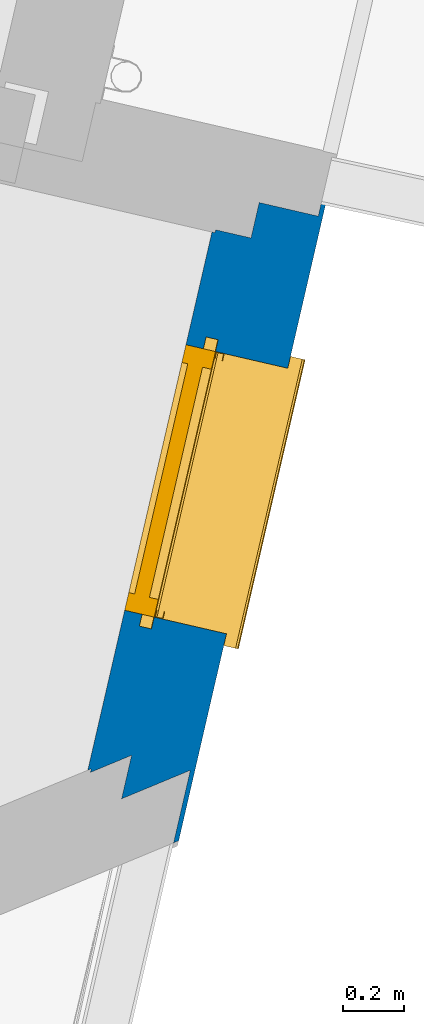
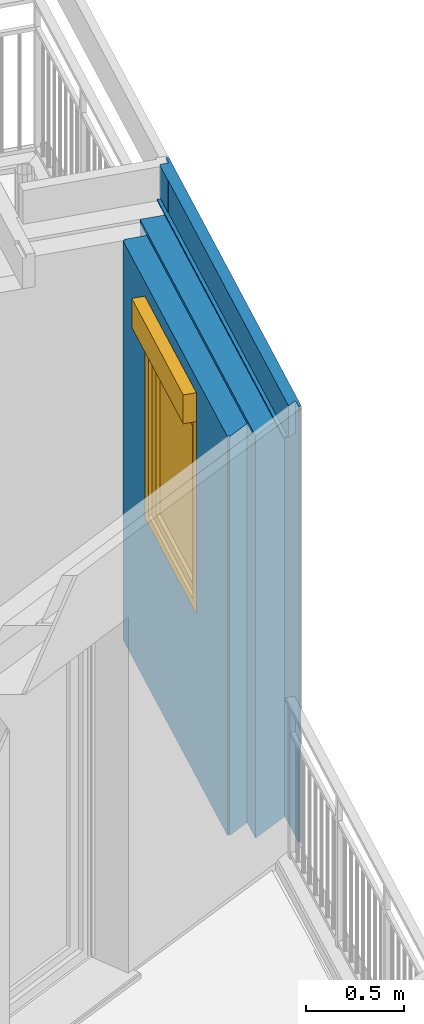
# One storey, part 15 of 91: 1 wall, 1 window, 1 opening.
"""IFC2X3 building model written with IfcOpenShell, lengths in metres."""

from ifc_helpers import new_model, entity, si_unit, converted_unit, derived_unit, money_unit, direction, frame, origin_with_axes, place, context, subcontext, project, spatial, open_shell, faceted_brep, surface_model, source, transform, mapped, material, material_list, type_object, element, fill, save


model = new_model("IFC2X3")

# Units and contexts
model_context = context("Model", 3, precision=1e-05, world=origin_with_axes(), true_north=direction((0.0, 1.0)))
body_context = subcontext(model_context, "Body", "Model", "MODEL_VIEW")
ifc_project = project(units=[si_unit("LENGTHUNIT", "METRE"), si_unit("AREAUNIT", "SQUARE_METRE"), si_unit("VOLUMEUNIT", "CUBIC_METRE"), converted_unit("PLANEANGLEUNIT", "DEGREE", entity("IfcPlaneAngleMeasure", 0.0174532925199), si_unit("PLANEANGLEUNIT", "RADIAN"), dimensions=[0, 0, 0, 0, 0, 0, 0]), si_unit("SOLIDANGLEUNIT", "STERADIAN"), money_unit("EUR"), converted_unit("TIMEUNIT", "Year", entity("IfcTimeMeasure", 31556926.0), si_unit("TIMEUNIT", "SECOND"), dimensions=[0, 0, 1, 0, 0, 0, 0]), si_unit("MASSUNIT", "GRAM", prefix="KILO"), si_unit("THERMODYNAMICTEMPERATUREUNIT", "DEGREE_CELSIUS"), si_unit("LUMINOUSINTENSITYUNIT", "LUMEN"), si_unit("ENERGYUNIT", "JOULE", prefix="MEGA"), derived_unit("THERMALCONDUCTANCEUNIT", [(si_unit("POWERUNIT", "WATT"), 1), (si_unit("LENGTHUNIT", "METRE"), -1), (si_unit("THERMODYNAMICTEMPERATUREUNIT", "KELVIN"), -1)]), derived_unit("SPECIFICHEATCAPACITYUNIT", [(si_unit("ENERGYUNIT", "JOULE"), 1), (si_unit("MASSUNIT", "GRAM", prefix="KILO"), -1), (si_unit("THERMODYNAMICTEMPERATUREUNIT", "KELVIN"), -1)]), derived_unit("MASSDENSITYUNIT", [(si_unit("MASSUNIT", "GRAM", prefix="KILO"), 1), (si_unit("VOLUMEUNIT", "CUBIC_METRE"), -1)])], contexts=[model_context])

# Site, building, storey
site_placement = place(None, origin_with_axes())
site = spatial("IfcSite", under=ifc_project, at=site_placement, Name="Site", CompositionType="ELEMENT")
building_placement = place(site_placement, origin_with_axes())
building = spatial("IfcBuilding", under=site, at=building_placement, Name="Bâtiment", CompositionType="ELEMENT")
storey_placement = place(building_placement, frame((0.0, 0.0, 5.44), z_axis=(0.0, 0.0, 1.0), x_axis=(1.0, 0.0, 0.0)))
storey = spatial("IfcBuildingStorey", under=building, at=storey_placement, Name="R+2", CompositionType="ELEMENT", Elevation=5.44)

# Wall, opening, window
ifc_material_1 = material(Name="Finition ext - Crépis")
ifc_material_2 = material(Name="Béton cellulaire")
ifc_material_3 = material(Name="Mortier")
ifc_material_4 = material(Name="Isolation - Polystyrène expansé")
ifc_material_5 = material(Name="Bloc ELITHERM")
ifc_material_6 = material(Name="Isolation - Polystyrène extrudé")
ifc_material_7 = material(Name="Finition int - Plaque de plâtre")
ifc_material_list = material_list([ifc_material_1, ifc_material_2, ifc_material_3, ifc_material_4, ifc_material_5, ifc_material_6, ifc_material_7])
wall_type = type_object("IfcWallType", Name="Mur ALKERN + planelle 21 345 x 2720", PredefinedType="USERDEFINED")
wall_placement = place(storey_placement, frame((-7.09774602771, -17.8354511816, 0.0), z_axis=(0.0, 0.0, 1.0), x_axis=(-0.224876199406, -0.974387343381, 0.0)))
wall = element("IfcWall", 1, at=wall_placement, inside=storey, type_object=wall_type, material=ifc_material_list, Name="Mue bloc ALKERN isolé", ObjectType="SOLIDWALL", context=body_context, shape_type="Brep", body=[
    faceted_brep([(0.726995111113, -0.0149999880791, 1.02), (0.726995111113, -0.0149999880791, 0.96), (0.726995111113, 0.0, 0.96), (0.726995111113, 0.0, 1.02), (0.726995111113, 0.0, 2.22), (0.726995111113, -0.0149999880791, 2.22), (0.0149999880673, -0.0149999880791, 2.72), (0.0149999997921, -0.0149999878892, 0.0), (0.0249818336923, -0.0149999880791, 0.0106237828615), (0.165039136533, -0.0149999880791, 0.0193762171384), (0.17502097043, -0.0149999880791, 0.01), (0.17502097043, -0.0149999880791, 0.0), (2.33899022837, -0.0149999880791, 0.0), (2.33899022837, -0.0149999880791, 2.72), (1.62699511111, -0.0149999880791, 2.22), (1.62699511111, -0.0149999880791, 1.02), (1.62699511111, -0.0149999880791, 0.96), (1.62699511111, 0.0, 0.96), (2.32828206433, 0.0, 0.0), (0.174778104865, 0.0, 0.0), (0.174778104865, 0.0, 0.01), (0.164796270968, 0.0, 0.0193762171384), (0.0247389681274, 0.0, 0.0106237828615), (0.0149999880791, 0.0, 0.000258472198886), (0.0149999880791, 0.0, 2.72), (2.32828206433, 0.0, 2.72), (1.62699511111, 0.0, 1.02), (1.62699511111, 0.0, 2.22)], [[[0, 1, 2, 3, 4, 5]], [[6, 7, 8, 9, 10, 11, 12, 13], [1, 0, 5, 14, 15, 16]], [[17, 2, 1, 16]], [[18, 19, 20, 21, 22, 23, 24, 25], [17, 26, 27, 4, 3, 2]], [[27, 14, 5, 4]], [[24, 23, 7, 6]], [[23, 22, 8, 7]], [[21, 9, 8, 22]], [[20, 10, 9, 21]], [[19, 11, 10, 20]], [[19, 18, 12, 11]], [[13, 12, 18, 25]], [[25, 24, 6, 13]], [[26, 17, 16, 15, 14, 27]]]),
    faceted_brep([(2.31428036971, -0.0629999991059, 2.72), (2.28001421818, -0.015, 2.72), (0.0629999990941, -0.015, 2.72), (0.0629999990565, -0.0629999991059, 2.72), (2.28001421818, -0.015, 2.51999999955), (2.31428036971, -0.0629999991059, 2.51999999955), (0.0629999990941, -0.015, 2.51999999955), (0.0629999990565, -0.0629999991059, 2.51999999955)], [[[0, 1, 2, 3]], [[4, 1, 0, 5]], [[1, 4, 6, 2]], [[3, 2, 6, 7]], [[5, 0, 3, 7]], [[4, 5, 7, 6]]]),
    faceted_brep([(2.30398459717, -0.083, 2.52), (2.25544088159, -0.015, 2.52), (0.0829999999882, -0.015, 2.52), (0.0829999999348, -0.083, 2.52), (2.25544088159, -0.015, 2.51), (2.30398459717, -0.083, 2.51), (0.0829999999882, -0.015, 2.51), (0.0829999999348, -0.083, 2.51)], [[[0, 1, 2, 3]], [[4, 1, 0, 5]], [[1, 4, 6, 2]], [[3, 2, 6, 7]], [[5, 0, 3, 7]], [[4, 5, 7, 6]]]),
    faceted_brep([(0.083000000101, -0.0649033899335, 2.51999999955), (0.083000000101, -0.0649033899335, 2.72), (0.0830000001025, -0.0630000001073, 2.72), (0.0830000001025, -0.0630000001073, 2.51999999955), (0.215000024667, -0.0649033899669, 2.72), (0.215000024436, -0.0649033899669, 2.51999999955), (0.215000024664, -0.0629999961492, 2.72), (0.215000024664, -0.0629999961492, 2.51999999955)], [[[0, 1, 2, 3]], [[4, 1, 0, 5]], [[1, 4, 6, 2]], [[6, 7, 3, 2]], [[5, 0, 3, 7]], [[4, 5, 7, 6]]]),
    faceted_brep([(0.726995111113, -0.214999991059, 1.02), (0.726995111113, -0.214999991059, 0.96), (0.726995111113, -0.015, 0.96), (0.726995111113, -0.015, 1.02), (0.726995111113, -0.015, 2.22), (0.726995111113, -0.214999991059, 2.22), (0.214999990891, -0.214999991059, 2.50999999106), (0.214999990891, -0.214999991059, 0.0), (2.23603250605, -0.214999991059, 0.0), (2.23603250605, -0.214999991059, 2.50999999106), (1.62699511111, -0.214999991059, 2.22), (1.62699511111, -0.214999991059, 1.02), (1.62699511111, -0.214999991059, 0.96), (1.62699511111, -0.015, 0.96), (0.214999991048, -0.015, 0.0), (0.214999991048, -0.015, 2.50999999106), (2.09325687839, -0.015, 2.50999999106), (2.09325687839, -0.015, 0.0), (1.62699511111, -0.015, 1.02), (1.62699511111, -0.015, 2.22), (0.214999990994, -0.0829999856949, 2.50999999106), (2.14180058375, -0.0829999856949, 2.50999999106)], [[[0, 1, 2, 3, 4, 5]], [[6, 7, 8, 9], [1, 0, 5, 10, 11, 12]], [[13, 2, 1, 12]], [[14, 15, 16, 17], [13, 18, 19, 4, 3, 2]], [[19, 10, 5, 4]], [[6, 20, 15, 14, 7]], [[7, 14, 17, 8]], [[8, 17, 16, 21, 9]], [[20, 6, 9, 21]], [[18, 13, 12, 11, 10, 19]], [[15, 20, 21, 16]]]),
    faceted_brep([(0.726995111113, -0.286, 1.02), (0.726995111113, -0.286, 0.96), (0.726995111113, -0.215000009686, 0.96), (0.726995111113, -0.215000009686, 1.02), (0.726995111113, -0.215, 2.22), (0.726995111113, -0.215, 2.4), (0.726995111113, -0.335000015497, 2.4), (0.726995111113, -0.335000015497, 2.22), (0.726995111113, -0.335000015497, 1.02), (1.62699511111, -0.286, 1.02), (1.62699511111, -0.286, 0.96), (1.62699511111, -0.215000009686, 0.96), (0.335000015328, -0.215000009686, 2.49), (2.08859247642, -0.215000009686, 2.49), (2.08859247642, -0.215000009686, 0.0), (0.335000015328, -0.215000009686, 0.0), (1.62699511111, -0.215000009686, 1.02), (1.62699511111, -0.215, 2.22), (1.62699511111, -0.215, 2.4), (1.62699511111, -0.335000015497, 2.4), (2.174257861, -0.335000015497, 2.49), (0.335000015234, -0.335000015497, 2.49), (0.335000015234, -0.335000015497, 0.0), (2.174257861, -0.335000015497, 0.0), (1.62699511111, -0.335000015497, 2.22), (1.62699511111, -0.335000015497, 1.02)], [[[0, 1, 2, 3, 4, 5, 6, 7, 8]], [[0, 9, 10, 1]], [[11, 2, 1, 10]], [[12, 13, 14, 15], [11, 16, 17, 18, 5, 4, 3, 2]], [[18, 19, 6, 5]], [[20, 21, 22, 23], [8, 7, 6, 19, 24, 25]], [[9, 0, 8, 25]], [[16, 11, 10, 9, 25, 24, 19, 18, 17]], [[13, 12, 21, 20]], [[13, 20, 23, 14]], [[15, 14, 23, 22]], [[21, 12, 15, 22]]]),
    faceted_brep([(2.16197122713, -0.335000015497, 0.0), (0.344999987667, -0.335000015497, 0.0), (0.344999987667, -0.335000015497, 2.49), (2.16197122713, -0.335000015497, 2.49), (1.62699511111, -0.335000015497, 2.22), (1.62699511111, -0.335000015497, 2.4), (0.726995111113, -0.335000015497, 2.4), (0.726995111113, -0.335000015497, 2.22), (0.726995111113, -0.335000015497, 1.02), (1.62699511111, -0.335000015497, 1.02), (2.16910998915, -0.34499998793, 0.0), (0.344999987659, -0.34499998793, 0.0), (0.344999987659, -0.34499998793, 2.49), (2.16910998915, -0.34499998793, 2.49), (1.62699511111, -0.34499998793, 2.22), (1.62699511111, -0.34499998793, 2.4), (1.62699511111, -0.34499998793, 1.02), (0.726995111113, -0.34499998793, 2.4), (0.726995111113, -0.34499998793, 2.22), (0.726995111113, -0.34499998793, 1.02)], [[[0, 1, 2, 3], [4, 5, 6, 7, 8, 9]], [[10, 11, 1, 0]], [[1, 11, 12, 2]], [[12, 13, 3, 2]], [[10, 0, 3, 13]], [[14, 15, 5, 4, 9, 16]], [[6, 5, 15, 17]], [[7, 6, 17, 18, 19, 8]], [[8, 19, 16, 9]], [[11, 10, 13, 12], [15, 14, 16, 19, 18, 17]]]),
])
opening_placement = place(wall_placement, frame((1.17699511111, 0.0, 1.02), z_axis=(0.0, 0.0, 1.0), x_axis=(1.0, 0.0, 0.0)))
opening = element("IfcOpeningElement", 2, at=opening_placement, cuts=wall, Name="MEN 94", context=body_context, shape_type="Brep", body=[
    faceted_brep([(-0.45, -0.245, 0.0), (0.45, -0.245, 0.0), (0.45, -0.83499998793, 0.0), (-0.45, -0.83499998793, 0.0), (-0.45, -0.245, 1.2), (0.45, -0.245, 1.2), (0.45, -0.83499998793, 1.2), (-0.45, -0.83499998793, 1.2)], [[[0, 1, 2, 3]], [[0, 4, 5, 1]], [[1, 5, 6, 2]], [[3, 2, 6, 7]], [[4, 0, 3, 7]], [[5, 4, 7, 6]]]),
    faceted_brep([(-0.45, -0.245, 0.0), (-0.45, -0.245, 1.2), (-0.45, 0.34499998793, 1.2), (-0.45, 0.34499998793, 0.0), (0.45, -0.245, 0.0), (0.45, -0.245, 1.2), (0.45, 0.34499998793, 1.2), (0.45, 0.34499998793, 0.0)], [[[0, 1, 2, 3]], [[0, 4, 5, 1]], [[1, 5, 6, 2]], [[3, 2, 6, 7]], [[4, 0, 3, 7]], [[5, 4, 7, 6]]]),
    faceted_brep([(-0.45, -0.245, 0.0), (-0.45, -0.245, 1.2), (-0.45, 0.34499998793, 1.2), (-0.45, 0.34499998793, 0.0), (0.45, -0.245, 0.0), (0.45, -0.245, 1.2), (0.45, 0.34499998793, 1.2), (0.45, 0.34499998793, 0.0)], [[[0, 1, 2, 3]], [[0, 4, 5, 1]], [[1, 5, 6, 2]], [[3, 2, 6, 7]], [[4, 0, 3, 7]], [[5, 4, 7, 6]]]),
    faceted_brep([(-0.45, -0.215, 1.2), (0.45, -0.215, 1.2), (0.45, -0.80499998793, 1.2), (-0.45, -0.80499998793, 1.2), (-0.45, -0.215, 1.38), (0.45, -0.215, 1.38), (0.45, -0.80499998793, 1.38), (-0.45, -0.80499998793, 1.38)], [[[0, 1, 2, 3]], [[0, 4, 5, 1]], [[1, 5, 6, 2]], [[3, 2, 6, 7]], [[4, 0, 3, 7]], [[5, 4, 7, 6]]]),
    faceted_brep([(-0.45, -0.286, 0.0), (0.45, -0.286, 0.0), (0.45, 0.30399998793, 0.0), (-0.45, 0.30399998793, 0.0), (-0.45, -0.286, -0.06), (0.45, -0.286, -0.06), (0.45, 0.30399998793, -0.06), (-0.45, 0.30399998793, -0.06)], [[[0, 1, 2, 3]], [[0, 4, 5, 1]], [[1, 5, 6, 2]], [[3, 2, 6, 7]], [[4, 0, 3, 7]], [[5, 4, 7, 6]]]),
])
window_style = type_object("IfcWindowStyle", Name="Baie générique 2017 v2", ConstructionType="NOTDEFINED", OperationType="NOTDEFINED", ParameterTakesPrecedence=False, Sizeable=False)
shared_shape = source(origin_with_axes(), body_context, "Body", "SurfaceModel", [
    faceted_brep([(0.45, 0.1, 0.0), (0.45, 0.0, 0.0), (-0.45, 0.0, 0.0), (-0.45, 0.1, 0.0), (0.45, 0.1, 1.2), (0.45, 0.0, 1.2), (-0.45, 0.0, 1.2), (0.39, 0.0, 0.05), (-0.39, 0.0, 0.05), (-0.39, 0.0, 1.15), (0.39, 0.0, 1.15), (-0.45, 0.1, 1.2), (0.39, 0.1, 0.05), (0.39, 0.1, 1.15), (-0.39, 0.1, 1.15), (-0.39, 0.1, 0.05)], [[[0, 1, 2, 3]], [[4, 5, 1, 0]], [[1, 5, 6, 2], [7, 8, 9, 10]], [[3, 2, 6, 11]], [[0, 3, 11, 4], [12, 13, 14, 15]], [[11, 6, 5, 4]], [[15, 8, 7, 12]], [[14, 9, 8, 15]], [[13, 10, 9, 14]], [[12, 7, 10, 13]]]),
    faceted_brep([(-0.39, 0.08, 1.15), (0.39, 0.08, 1.15), (0.39, 0.08, 0.05), (-0.39, 0.08, 0.05), (-0.32, 0.08, 1.08), (-0.32, 0.08, 0.1), (0.32, 0.08, 0.1), (0.32, 0.08, 1.08), (-0.39, 0.03, 1.15), (0.39, 0.03, 1.15), (0.39, 0.03, 0.05), (-0.39, 0.03, 0.05), (-0.32, 0.03, 1.08), (-0.32, 0.03, 0.1), (0.32, 0.03, 0.1), (0.32, 0.03, 1.08)], [[[0, 1, 2, 3], [4, 5, 6, 7]], [[0, 8, 9, 1]], [[9, 10, 2, 1]], [[10, 11, 3, 2]], [[3, 11, 8, 0]], [[4, 12, 13, 5]], [[13, 14, 6, 5]], [[14, 15, 7, 6]], [[7, 15, 12, 4]], [[9, 8, 11, 10], [13, 12, 15, 14]]]),
    surface_model("IfcShellBasedSurfaceModel", [(0.39, 0.08, 0.05), (0.39, 0.08, 1.15), (0.39, 0.055, 1.15), (0.39, 0.055, 0.05)], [open_shell([[[0, 1, 2, 3]]])]),
    surface_model("IfcShellBasedSurfaceModel", [(-0.39, 0.08, 0.05), (-0.39, 0.08, 1.15), (-0.39, 0.055, 1.15), (-0.39, 0.055, 0.05)], [open_shell([[[0, 1, 2, 3]]])]),
    surface_model("IfcShellBasedSurfaceModel", [(0.39, 0.08, 0.05), (-0.39, 0.08, 0.05), (-0.39, 0.055, 0.05), (0.39, 0.055, 0.05)], [open_shell([[[0, 1, 2, 3]]])]),
    surface_model("IfcShellBasedSurfaceModel", [(0.39, 0.08, 1.15), (-0.39, 0.08, 1.15), (-0.39, 0.055, 1.15), (0.39, 0.055, 1.15)], [open_shell([[[0, 1, 2, 3]]])]),
    surface_model("IfcShellBasedSurfaceModel", [(0.39, 0.055, 0.05), (0.39, 0.055, 1.15), (0.39, 0.03, 1.15), (0.39, 0.03, 0.05)], [open_shell([[[0, 1, 2, 3]]])]),
    surface_model("IfcShellBasedSurfaceModel", [(-0.39, 0.055, 0.05), (-0.39, 0.055, 1.15), (-0.39, 0.03, 1.15), (-0.39, 0.03, 0.05)], [open_shell([[[0, 1, 2, 3]]])]),
    surface_model("IfcShellBasedSurfaceModel", [(0.39, 0.055, 0.05), (-0.39, 0.055, 0.05), (-0.39, 0.03, 0.05), (0.39, 0.03, 0.05)], [open_shell([[[0, 1, 2, 3]]])]),
    surface_model("IfcShellBasedSurfaceModel", [(0.39, 0.055, 1.15), (-0.39, 0.055, 1.15), (-0.39, 0.03, 1.15), (0.39, 0.03, 1.15)], [open_shell([[[0, 1, 2, 3]]])]),
    faceted_brep([(0.32, 0.0575, 0.1), (0.32, 0.0525, 0.1), (-0.32, 0.0525, 0.1), (-0.32, 0.0575, 0.1), (0.32, 0.0575, 1.08), (0.32, 0.0525, 1.08), (-0.32, 0.0525, 1.08), (-0.32, 0.0575, 1.08)], [[[0, 1, 2, 3]], [[4, 5, 1, 0]], [[1, 5, 6, 2]], [[3, 2, 6, 7]], [[0, 3, 7, 4]], [[7, 6, 5, 4]]]),
    faceted_brep([(0.45, -0.03, 0.0), (0.45, -0.03, 1.2), (0.425, -0.03, 1.2), (0.425, -0.03, 0.0), (0.45, -0.002, 0.0), (0.45, -0.002, 1.2), (0.425, -0.002, 1.2), (0.425, -0.004, 1.2), (0.448, -0.004, 1.2), (0.448, -0.028, 1.2), (0.425, -0.028, 1.2), (0.425, -0.028, 0.0), (0.448, -0.028, 0.0), (0.448, -0.004, 0.0), (0.425, -0.004, 0.0), (0.425, -0.002, 0.0)], [[[0, 1, 2, 3]], [[4, 5, 1, 0]], [[1, 5, 6, 7, 8, 9, 10, 2]], [[3, 2, 10, 11]], [[0, 3, 11, 12, 13, 14, 15, 4]], [[15, 6, 5, 4]], [[14, 7, 6, 15]], [[13, 8, 7, 14]], [[12, 9, 8, 13]], [[11, 10, 9, 12]]]),
    faceted_brep([(-0.45, -0.03, 0.0), (-0.425, -0.03, 0.0), (-0.425, -0.03, 1.2), (-0.45, -0.03, 1.2), (-0.45, -0.002, 0.0), (-0.425, -0.002, 0.0), (-0.425, -0.004, 0.0), (-0.448, -0.004, 0.0), (-0.448, -0.028, 0.0), (-0.425, -0.028, 0.0), (-0.425, -0.028, 1.2), (-0.448, -0.028, 1.2), (-0.448, -0.004, 1.2), (-0.425, -0.004, 1.2), (-0.425, -0.002, 1.2), (-0.45, -0.002, 1.2)], [[[0, 1, 2, 3]], [[0, 4, 5, 6, 7, 8, 9, 1]], [[1, 9, 10, 2]], [[3, 2, 10, 11, 12, 13, 14, 15]], [[4, 0, 3, 15]], [[5, 4, 15, 14]], [[6, 5, 14, 13]], [[7, 6, 13, 12]], [[8, 7, 12, 11]], [[9, 8, 11, 10]]]),
    faceted_brep([(-0.448, -0.028, 1.2), (-0.448, -0.028, 1.378), (0.448, -0.028, 1.378), (0.448, -0.028, 1.2), (-0.448, -0.03, 1.2), (-0.448, -0.03, 1.38), (-0.448, 0.17, 1.38), (-0.448, 0.17, 1.2), (-0.448, 0.168, 1.2), (-0.448, 0.168, 1.378), (0.448, 0.168, 1.378), (0.448, 0.168, 1.2), (0.448, 0.17, 1.2), (0.448, 0.17, 1.38), (0.448, -0.03, 1.38), (0.448, -0.03, 1.2)], [[[0, 1, 2, 3]], [[0, 4, 5, 6, 7, 8, 9, 1]], [[1, 9, 10, 2]], [[3, 2, 10, 11, 12, 13, 14, 15]], [[4, 0, 3, 15]], [[5, 4, 15, 14]], [[6, 5, 14, 13]], [[7, 6, 13, 12]], [[8, 7, 12, 11]], [[9, 8, 11, 10]]]),
    faceted_brep([(-0.448, 0.0724697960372, 1.27436337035), (-0.448, 0.0555495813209, 1.27050144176), (-0.448, 0.041980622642, 1.28132232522), (-0.448, 0.041980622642, 1.29867767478), (-0.448, 0.0555495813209, 1.30949855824), (-0.448, 0.0724697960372, 1.30563662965), (-0.448, 0.08, 1.29), (0.448, 0.0724697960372, 1.27436337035), (0.448, 0.0555495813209, 1.27050144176), (0.448, 0.041980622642, 1.28132232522), (0.448, 0.041980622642, 1.29867767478), (0.448, 0.0555495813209, 1.30949855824), (0.448, 0.0724697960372, 1.30563662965), (0.448, 0.08, 1.29)], [[[0, 1, 2, 3, 4, 5, 6]], [[1, 0, 7, 8]], [[2, 1, 8, 9]], [[3, 2, 9, 10]], [[4, 3, 10, 11]], [[5, 4, 11, 12]], [[6, 5, 12, 13]], [[0, 6, 13, 7]], [[7, 13, 12, 11, 10, 9, 8]]]),
    faceted_brep([(-0.438, 0.130275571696, 1.25615706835), (-0.438, 0.108632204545, 1.22901714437), (-0.438, 0.0773566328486, 1.21395562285), (-0.438, 0.0426433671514, 1.21395562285), (-0.438, 0.011367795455, 1.22901714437), (-0.438, -0.0102755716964, 1.25615706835), (-0.438, -0.018, 1.29), (-0.438, -0.0102755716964, 1.32384293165), (-0.438, 0.011367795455, 1.35098285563), (-0.438, 0.0426433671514, 1.36604437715), (-0.438, 0.0773566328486, 1.36604437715), (-0.438, 0.108632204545, 1.35098285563), (-0.438, 0.130275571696, 1.32384293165), (-0.438, 0.138, 1.29), (0.438, 0.130275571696, 1.25615706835), (0.438, 0.108632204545, 1.22901714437), (0.438, 0.0773566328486, 1.21395562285), (0.438, 0.0426433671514, 1.21395562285), (0.438, 0.011367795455, 1.22901714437), (0.438, -0.0102755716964, 1.25615706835), (0.438, -0.018, 1.29), (0.438, -0.0102755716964, 1.32384293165), (0.438, 0.011367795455, 1.35098285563), (0.438, 0.0426433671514, 1.36604437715), (0.438, 0.0773566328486, 1.36604437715), (0.438, 0.108632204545, 1.35098285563), (0.438, 0.130275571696, 1.32384293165), (0.438, 0.138, 1.29)], [[[0, 1, 2, 3, 4, 5, 6, 7, 8, 9, 10, 11, 12, 13]], [[1, 0, 14, 15]], [[2, 1, 15, 16]], [[3, 2, 16, 17]], [[4, 3, 17, 18]], [[5, 4, 18, 19]], [[6, 5, 19, 20]], [[7, 6, 20, 21]], [[8, 7, 21, 22]], [[9, 8, 22, 23]], [[10, 9, 23, 24]], [[11, 10, 24, 25]], [[12, 11, 25, 26]], [[13, 12, 26, 27]], [[0, 13, 27, 14]], [[14, 27, 26, 25, 24, 23, 22, 21, 20, 19, 18, 17, 16, 15]]]),
    faceted_brep([(-0.45, 0.17, 1.2), (-0.45, 0.17, 1.38), (-0.448, 0.17, 1.38), (-0.448, 0.17, 1.2), (-0.45, -0.03, 1.2), (-0.45, -0.03, 1.38), (-0.448, -0.03, 1.38), (-0.448, -0.03, 1.2)], [[[0, 1, 2, 3]], [[0, 4, 5, 1]], [[1, 5, 6, 2]], [[3, 2, 6, 7]], [[4, 0, 3, 7]], [[5, 4, 7, 6]]]),
    faceted_brep([(0.448, 0.17, 1.2), (0.448, 0.17, 1.38), (0.45, 0.17, 1.38), (0.45, 0.17, 1.2), (0.448, -0.03, 1.2), (0.448, -0.03, 1.38), (0.45, -0.03, 1.38), (0.45, -0.03, 1.2)], [[[0, 1, 2, 3]], [[0, 4, 5, 1]], [[1, 5, 6, 2]], [[3, 2, 6, 7]], [[4, 0, 3, 7]], [[5, 4, 7, 6]]]),
    faceted_brep([(-0.448, -0.004, 1.2), (-0.448, 0.168, 1.2), (0.448, 0.168, 1.2), (0.448, -0.004, 1.2), (-0.448, -0.004, 1.202), (-0.448, 0.168, 1.202), (0.448, 0.168, 1.202), (0.448, -0.004, 1.202)], [[[0, 1, 2, 3]], [[0, 4, 5, 1]], [[1, 5, 6, 2]], [[3, 2, 6, 7]], [[4, 0, 3, 7]], [[5, 4, 7, 6]]]),
    faceted_brep([(-0.438, -0.006, 1.2), (-0.438, -0.006, 1.29), (0.438, -0.006, 1.29), (0.438, -0.006, 1.2), (-0.438, -0.026, 1.2), (-0.438, -0.026, 1.29), (0.438, -0.026, 1.29), (0.438, -0.026, 1.2)], [[[0, 1, 2, 3]], [[1, 0, 4, 5]], [[2, 1, 5, 6]], [[3, 2, 6, 7]], [[4, 0, 3, 7]], [[5, 4, 7, 6]]]),
    faceted_brep([(-0.45, -0.00167949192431, -0.01), (0.45, -0.00167949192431, -0.01), (0.45, 0.0, -0.00373205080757), (0.49, 0.0, -0.00373205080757), (0.49, 0.001, 0.0), (-0.49, 0.001, 0.0), (-0.49, 0.0, -0.00373205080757), (-0.45, 0.0, -0.00373205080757), (-0.45, -0.009, -0.0173205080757), (0.45, -0.009, -0.0173205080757), (0.45, -0.245, -0.02), (0.45, -0.245, -0.06), (0.45, 0.0, -0.06), (0.45, -0.019, -0.02), (0.49, 0.0, -0.06), (0.49, 0.041, -0.06), (0.49, 0.041, 0.0), (-0.49, 0.041, 0.0), (-0.49, 0.041, -0.06), (-0.49, 0.0, -0.06), (-0.45, 0.0, -0.06), (-0.45, -0.245, -0.06), (-0.45, -0.245, -0.02), (-0.45, -0.019, -0.02), (0.49, -0.245, -0.02), (0.49, -0.245, -0.06), (0.49, -0.275, -0.06), (-0.49, -0.275, -0.06), (-0.49, -0.245, -0.06), (-0.49, -0.245, -0.02), (-0.49, -0.285, -0.02), (0.49, -0.285, -0.02), (0.49, -0.295, -0.03), (0.49, -0.295, -0.06), (0.49, -0.285, -0.06), (0.49, -0.285, -0.05), (0.49, -0.275, -0.05), (0.49, -0.292071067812, -0.0229289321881), (-0.49, -0.275, -0.05), (-0.49, -0.285, -0.05), (-0.49, -0.285, -0.06), (-0.49, -0.295, -0.06), (-0.49, -0.295, -0.03), (-0.49, -0.292071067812, -0.0229289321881)], [[[0, 1, 2, 3, 4, 5, 6, 7]], [[8, 9, 1, 0]], [[10, 11, 12, 2, 1, 9, 13]], [[3, 2, 12, 14]], [[4, 3, 14, 15, 16]], [[16, 17, 5, 4]], [[6, 5, 17, 18, 19]], [[19, 20, 7, 6]], [[7, 20, 21, 22, 23, 8, 0]], [[23, 13, 9, 8]], [[10, 24, 25, 11]], [[21, 20, 19, 18, 15, 14, 12, 11, 25, 26, 27, 28]], [[22, 29, 30, 31, 24, 10, 13, 23]], [[15, 18, 17, 16]], [[22, 21, 28, 29]], [[32, 33, 34, 35, 36, 26, 25, 24, 31, 37]], [[36, 38, 27, 26]], [[28, 27, 38, 39, 40, 41, 42, 43, 30, 29]], [[31, 30, 43, 37]], [[32, 42, 41, 33]], [[33, 41, 40, 34]], [[34, 40, 39, 35]], [[35, 39, 38, 36]], [[37, 43, 42, 32]]]),
])
window_placement = place(opening_placement, frame((0.45, 0.0, 0.0), z_axis=(0.0, 0.0, 1.0), x_axis=(-1.0, 0.0, 0.0)))
window = element("IfcWindow", 3, at=window_placement, inside=storey, type_object=window_style, Name="MEN 94", ObjectType="WINDOW", OverallHeight=1.2, OverallWidth=0.9, context=body_context, shape_type="MappedRepresentation", body=[
    mapped(shared_shape, transform((0.45, 0.245, 0.0))),
])
fill(opening, window)

save(model, "model.ifc")
